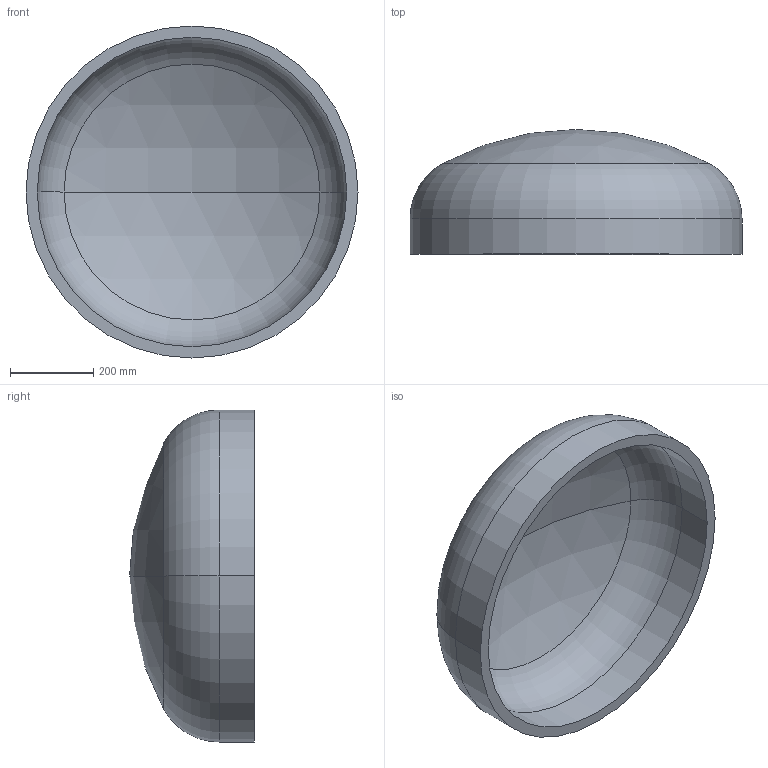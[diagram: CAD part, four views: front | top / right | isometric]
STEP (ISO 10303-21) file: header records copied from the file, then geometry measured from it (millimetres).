
FILE_DESCRIPTION (( 'STEP AP203' ), '1' );
FILE_NAME ('DIN 28013 Korbbogenform_-_Boden DIN 28013 - 800 x 85 - I - s=27.step', '2016-07-01T08:14:43', ( '' ), ( '' ), 'SwSTEP 2.0', 'SolidWorks 2013', '' );
FILE_SCHEMA (( 'CONFIG_CONTROL_DESIGN' ));
Length unit declared in the file: millimetre
Products named in the file (1): DIN 28013 Korbbogenform_-_Boden DIN 28013 - 800 x 85 - I - s=27
Bounding box: 800 x 300.65 x 800 mm (x, y, z)
Volume: 23614547.8 mm3; surface area: 1816320.3 mm2
Topology: 1 solids, 1 shells, 13 faces, 24 edges, 14 vertices
Faces by surface type: torus 4, cylinder 4, sphere 4, plane 1
Entity records: 407 total; most frequent: DIRECTION 72, CARTESIAN_POINT 52, ORIENTED_EDGE 48, AXIS2_PLACEMENT_3D 34, EDGE_CURVE 24, CIRCLE 20, EDGE_LOOP 14, VERTEX_POINT 14
